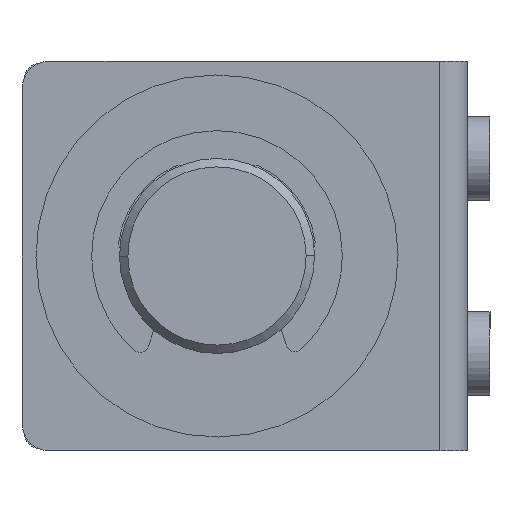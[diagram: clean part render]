
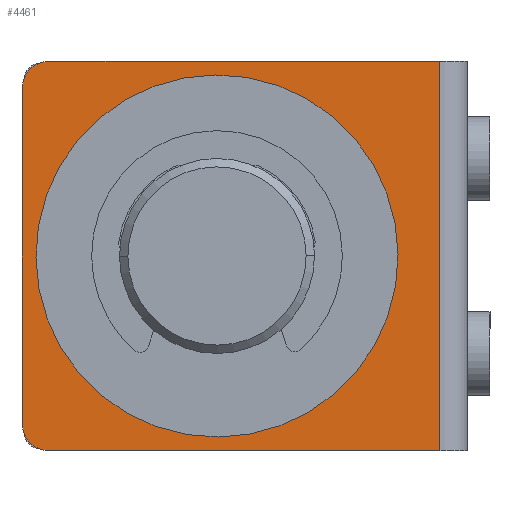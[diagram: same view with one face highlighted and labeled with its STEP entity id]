
A CAD part, front view. The second image highlights one B-rep face of the part: STEP entity #4461.
In plain terms, the highlighted planar face has unit normal (0, -1, 0).
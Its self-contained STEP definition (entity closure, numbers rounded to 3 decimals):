
#29 = ORIENTED_EDGE ( 'NONE', *, *, #2177, .F. ) ;
#159 = DIRECTION ( 'NONE',  ( 1., 0., 0. ) ) ;
#175 = ORIENTED_EDGE ( 'NONE', *, *, #6981, .F. ) ;
#211 = CARTESIAN_POINT ( 'NONE',  ( 6., -2., -1. ) ) ;
#609 = AXIS2_PLACEMENT_3D ( 'NONE', #1239, #7207, #3607 ) ;
#816 = DIRECTION ( 'NONE',  ( 0., 0., 1. ) ) ;
#833 = CARTESIAN_POINT ( 'NONE',  ( -8., -2., -7. ) ) ;
#1026 = DIRECTION ( 'NONE',  ( 0., 0., -1. ) ) ;
#1027 = VERTEX_POINT ( 'NONE', #5777 ) ;
#1099 = ORIENTED_EDGE ( 'NONE', *, *, #2113, .F. ) ;
#1150 = VERTEX_POINT ( 'NONE', #5288 ) ;
#1239 = CARTESIAN_POINT ( 'NONE',  ( 7., -2., 0. ) ) ;
#1249 = LINE ( 'NONE', #4324, #3002 ) ;
#1431 = VECTOR ( 'NONE', #6127, 1000. ) ;
#1737 = ORIENTED_EDGE ( 'NONE', *, *, #2703, .F. ) ;
#1813 = ORIENTED_EDGE ( 'NONE', *, *, #5366, .F. ) ;
#2075 = DIRECTION ( 'NONE',  ( 0., -1., 0. ) ) ;
#2089 = DIRECTION ( 'NONE',  ( 0., -1., 0. ) ) ;
#2113 = EDGE_CURVE ( 'NONE', #3410, #5885, #4668, .T. ) ;
#2175 = VECTOR ( 'NONE', #1026, 1000. ) ;
#2177 = EDGE_CURVE ( 'NONE', #6012, #5524, #3922, .T. ) ;
#2338 = CARTESIAN_POINT ( 'NONE',  ( 0., -2., -10.9 ) ) ;
#2450 = DIRECTION ( 'NONE',  ( 0., -1., 0. ) ) ;
#2550 = CARTESIAN_POINT ( 'NONE',  ( -1.5, -2., -14. ) ) ;
#2558 = EDGE_CURVE ( 'NONE', #1027, #1150, #5597, .T. ) ;
#2618 = CARTESIAN_POINT ( 'NONE',  ( 6., -2., -14. ) ) ;
#2637 = CARTESIAN_POINT ( 'NONE',  ( 0., -2., -3.1 ) ) ;
#2703 = EDGE_CURVE ( 'NONE', #5524, #6012, #6630, .T. ) ;
#2740 = CARTESIAN_POINT ( 'NONE',  ( 7., -2., -13. ) ) ;
#2828 = EDGE_LOOP ( 'NONE', ( #1737, #29 ) ) ;
#2892 = VECTOR ( 'NONE', #4386, 1000. ) ;
#2998 = LINE ( 'NONE', #2550, #1431 ) ;
#3002 = VECTOR ( 'NONE', #159, 1000. ) ;
#3017 = PLANE ( 'NONE',  #609 ) ;
#3356 = VERTEX_POINT ( 'NONE', #2740 ) ;
#3410 = VERTEX_POINT ( 'NONE', #3964 ) ;
#3607 = DIRECTION ( 'NONE',  ( 0., 0., -1. ) ) ;
#3922 = CIRCLE ( 'NONE', #4309, 3.9 ) ;
#3964 = CARTESIAN_POINT ( 'NONE',  ( -8., -2., -14. ) ) ;
#4012 = CARTESIAN_POINT ( 'NONE',  ( 7., -2., -7. ) ) ;
#4130 = FACE_OUTER_BOUND ( 'NONE', #4736, .T. ) ;
#4309 = AXIS2_PLACEMENT_3D ( 'NONE', #5647, #2075, #6251 ) ;
#4324 = CARTESIAN_POINT ( 'NONE',  ( -1.5, -2., 0. ) ) ;
#4365 = DIRECTION ( 'NONE',  ( 0., 1., 0. ) ) ;
#4369 = CARTESIAN_POINT ( 'NONE',  ( -8., -2., 0. ) ) ;
#4386 = DIRECTION ( 'NONE',  ( 0., 0., 1. ) ) ;
#4461 = ADVANCED_FACE ( 'NONE', ( #5911, #4130 ), #3017, .F. ) ;
#4566 = AXIS2_PLACEMENT_3D ( 'NONE', #211, #4365, #816 ) ;
#4668 = LINE ( 'NONE', #833, #2892 ) ;
#4736 = EDGE_LOOP ( 'NONE', ( #6566, #7752, #1813, #5990, #175, #1099 ) ) ;
#5016 = AXIS2_PLACEMENT_3D ( 'NONE', #6021, #2450, #6627 ) ;
#5142 = VERTEX_POINT ( 'NONE', #2618 ) ;
#5288 = CARTESIAN_POINT ( 'NONE',  ( 7., -2., -1. ) ) ;
#5344 = LINE ( 'NONE', #4012, #2175 ) ;
#5354 = CIRCLE ( 'NONE', #5016, 1. ) ;
#5366 = EDGE_CURVE ( 'NONE', #1150, #3356, #5344, .T. ) ;
#5524 = VERTEX_POINT ( 'NONE', #2338 ) ;
#5597 = CIRCLE ( 'NONE', #4566, 1. ) ;
#5647 = CARTESIAN_POINT ( 'NONE',  ( 0., -2., -7. ) ) ;
#5658 = CARTESIAN_POINT ( 'NONE',  ( 0., -2., -7. ) ) ;
#5777 = CARTESIAN_POINT ( 'NONE',  ( 6., -2., 0. ) ) ;
#5885 = VERTEX_POINT ( 'NONE', #4369 ) ;
#5911 = FACE_BOUND ( 'NONE', #2828, .T. ) ;
#5990 = ORIENTED_EDGE ( 'NONE', *, *, #2558, .F. ) ;
#6012 = VERTEX_POINT ( 'NONE', #2637 ) ;
#6021 = CARTESIAN_POINT ( 'NONE',  ( 6., -2., -13. ) ) ;
#6127 = DIRECTION ( 'NONE',  ( 1., 0., 0. ) ) ;
#6251 = DIRECTION ( 'NONE',  ( 0., 0., -1. ) ) ;
#6261 = DIRECTION ( 'NONE',  ( 0., 0., -1. ) ) ;
#6566 = ORIENTED_EDGE ( 'NONE', *, *, #7682, .T. ) ;
#6627 = DIRECTION ( 'NONE',  ( 0., 0., -1. ) ) ;
#6630 = CIRCLE ( 'NONE', #7382, 3.9 ) ;
#6981 = EDGE_CURVE ( 'NONE', #5885, #1027, #1249, .T. ) ;
#7207 = DIRECTION ( 'NONE',  ( 0., 1., 0. ) ) ;
#7382 = AXIS2_PLACEMENT_3D ( 'NONE', #5658, #2089, #6261 ) ;
#7525 = EDGE_CURVE ( 'NONE', #5142, #3356, #5354, .T. ) ;
#7682 = EDGE_CURVE ( 'NONE', #3410, #5142, #2998, .T. ) ;
#7752 = ORIENTED_EDGE ( 'NONE', *, *, #7525, .T. ) ;
